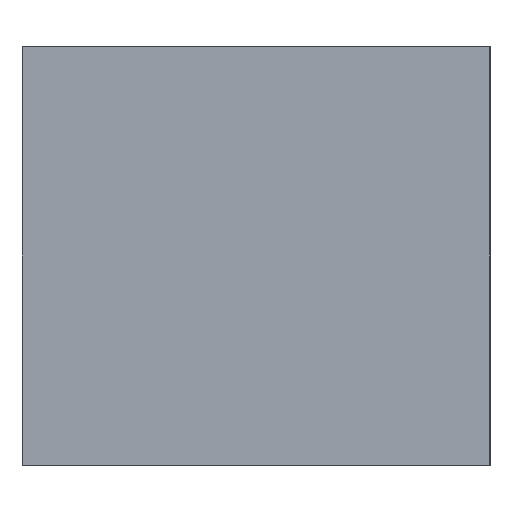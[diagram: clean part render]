
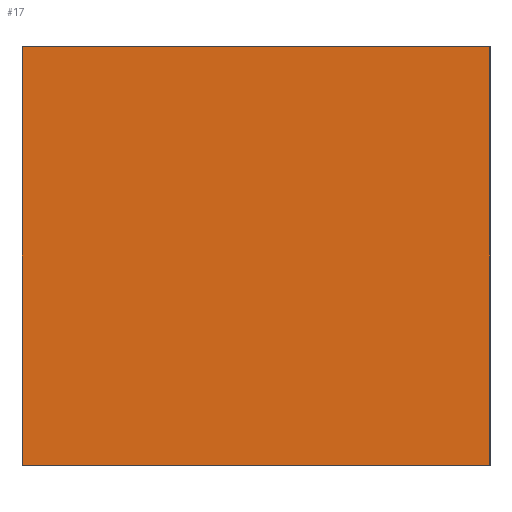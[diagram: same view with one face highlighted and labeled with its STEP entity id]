
A CAD part, left-side view. The second image highlights one B-rep face of the part: STEP entity #17.
In plain terms, the highlighted planar face has unit normal (-1, 0, 0).
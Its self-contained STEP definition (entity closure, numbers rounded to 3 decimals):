
#17 = ADVANCED_FACE('',(#18),#32,.F.);
#18 = FACE_BOUND('',#19,.F.);
#19 = EDGE_LOOP('',(#20,#55,#83,#111));
#20 = ORIENTED_EDGE('',*,*,#21,.F.);
#21 = EDGE_CURVE('',#22,#24,#26,.T.);
#22 = VERTEX_POINT('',#23);
#23 = CARTESIAN_POINT('',(-41.,-19.,0.));
#24 = VERTEX_POINT('',#25);
#25 = CARTESIAN_POINT('',(-41.,-19.,34.));
#26 = SURFACE_CURVE('',#27,(#31,#43),.PCURVE_S1.);
#27 = LINE('',#28,#29);
#28 = CARTESIAN_POINT('',(-41.,-19.,0.));
#29 = VECTOR('',#30,1.);
#30 = DIRECTION('',(0.,0.,1.));
#31 = PCURVE('',#32,#37);
#32 = PLANE('',#33);
#33 = AXIS2_PLACEMENT_3D('',#34,#35,#36);
#34 = CARTESIAN_POINT('',(-41.,-19.,30.));
#35 = DIRECTION('',(1.,0.,0.));
#36 = DIRECTION('',(0.,0.,1.));
#37 = DEFINITIONAL_REPRESENTATION('',(#38),#42);
#38 = LINE('',#39,#40);
#39 = CARTESIAN_POINT('',(-30.,0.));
#40 = VECTOR('',#41,1.);
#41 = DIRECTION('',(1.,0.));
#42 = ( GEOMETRIC_REPRESENTATION_CONTEXT(2) 
PARAMETRIC_REPRESENTATION_CONTEXT() REPRESENTATION_CONTEXT('2D SPACE',''
  ) );
#43 = PCURVE('',#44,#49);
#44 = PLANE('',#45);
#45 = AXIS2_PLACEMENT_3D('',#46,#47,#48);
#46 = CARTESIAN_POINT('',(-41.,-19.,30.));
#47 = DIRECTION('',(0.,1.,0.));
#48 = DIRECTION('',(0.,0.,1.));
#49 = DEFINITIONAL_REPRESENTATION('',(#50),#54);
#50 = LINE('',#51,#52);
#51 = CARTESIAN_POINT('',(-30.,0.));
#52 = VECTOR('',#53,1.);
#53 = DIRECTION('',(1.,0.));
#54 = ( GEOMETRIC_REPRESENTATION_CONTEXT(2) 
PARAMETRIC_REPRESENTATION_CONTEXT() REPRESENTATION_CONTEXT('2D SPACE',''
  ) );
#55 = ORIENTED_EDGE('',*,*,#56,.T.);
#56 = EDGE_CURVE('',#22,#57,#59,.T.);
#57 = VERTEX_POINT('',#58);
#58 = CARTESIAN_POINT('',(-41.,19.,0.));
#59 = SURFACE_CURVE('',#60,(#64,#71),.PCURVE_S1.);
#60 = LINE('',#61,#62);
#61 = CARTESIAN_POINT('',(-41.,-19.,0.));
#62 = VECTOR('',#63,1.);
#63 = DIRECTION('',(0.,1.,0.));
#64 = PCURVE('',#32,#65);
#65 = DEFINITIONAL_REPRESENTATION('',(#66),#70);
#66 = LINE('',#67,#68);
#67 = CARTESIAN_POINT('',(-30.,0.));
#68 = VECTOR('',#69,1.);
#69 = DIRECTION('',(0.,-1.));
#70 = ( GEOMETRIC_REPRESENTATION_CONTEXT(2) 
PARAMETRIC_REPRESENTATION_CONTEXT() REPRESENTATION_CONTEXT('2D SPACE',''
  ) );
#71 = PCURVE('',#72,#77);
#72 = PLANE('',#73);
#73 = AXIS2_PLACEMENT_3D('',#74,#75,#76);
#74 = CARTESIAN_POINT('',(-41.,-19.,0.));
#75 = DIRECTION('',(0.,0.,1.));
#76 = DIRECTION('',(1.,0.,0.));
#77 = DEFINITIONAL_REPRESENTATION('',(#78),#82);
#78 = LINE('',#79,#80);
#79 = CARTESIAN_POINT('',(0.,0.));
#80 = VECTOR('',#81,1.);
#81 = DIRECTION('',(0.,1.));
#82 = ( GEOMETRIC_REPRESENTATION_CONTEXT(2) 
PARAMETRIC_REPRESENTATION_CONTEXT() REPRESENTATION_CONTEXT('2D SPACE',''
  ) );
#83 = ORIENTED_EDGE('',*,*,#84,.F.);
#84 = EDGE_CURVE('',#85,#57,#87,.T.);
#85 = VERTEX_POINT('',#86);
#86 = CARTESIAN_POINT('',(-41.,19.,34.));
#87 = SURFACE_CURVE('',#88,(#92,#99),.PCURVE_S1.);
#88 = LINE('',#89,#90);
#89 = CARTESIAN_POINT('',(-41.,19.,34.));
#90 = VECTOR('',#91,1.);
#91 = DIRECTION('',(0.,0.,-1.));
#92 = PCURVE('',#32,#93);
#93 = DEFINITIONAL_REPRESENTATION('',(#94),#98);
#94 = LINE('',#95,#96);
#95 = CARTESIAN_POINT('',(4.,-38.));
#96 = VECTOR('',#97,1.);
#97 = DIRECTION('',(-1.,0.));
#98 = ( GEOMETRIC_REPRESENTATION_CONTEXT(2) 
PARAMETRIC_REPRESENTATION_CONTEXT() REPRESENTATION_CONTEXT('2D SPACE',''
  ) );
#99 = PCURVE('',#100,#105);
#100 = PLANE('',#101);
#101 = AXIS2_PLACEMENT_3D('',#102,#103,#104);
#102 = CARTESIAN_POINT('',(-41.,19.,30.));
#103 = DIRECTION('',(0.,1.,0.));
#104 = DIRECTION('',(0.,0.,1.));
#105 = DEFINITIONAL_REPRESENTATION('',(#106),#110);
#106 = LINE('',#107,#108);
#107 = CARTESIAN_POINT('',(4.,0.));
#108 = VECTOR('',#109,1.);
#109 = DIRECTION('',(-1.,0.));
#110 = ( GEOMETRIC_REPRESENTATION_CONTEXT(2) 
PARAMETRIC_REPRESENTATION_CONTEXT() REPRESENTATION_CONTEXT('2D SPACE',''
  ) );
#111 = ORIENTED_EDGE('',*,*,#112,.F.);
#112 = EDGE_CURVE('',#24,#85,#113,.T.);
#113 = SURFACE_CURVE('',#114,(#118,#125),.PCURVE_S1.);
#114 = LINE('',#115,#116);
#115 = CARTESIAN_POINT('',(-41.,-19.,34.));
#116 = VECTOR('',#117,1.);
#117 = DIRECTION('',(0.,1.,0.));
#118 = PCURVE('',#32,#119);
#119 = DEFINITIONAL_REPRESENTATION('',(#120),#124);
#120 = LINE('',#121,#122);
#121 = CARTESIAN_POINT('',(4.,0.));
#122 = VECTOR('',#123,1.);
#123 = DIRECTION('',(0.,-1.));
#124 = ( GEOMETRIC_REPRESENTATION_CONTEXT(2) 
PARAMETRIC_REPRESENTATION_CONTEXT() REPRESENTATION_CONTEXT('2D SPACE',''
  ) );
#125 = PCURVE('',#126,#131);
#126 = PLANE('',#127);
#127 = AXIS2_PLACEMENT_3D('',#128,#129,#130);
#128 = CARTESIAN_POINT('',(-41.,-19.,34.));
#129 = DIRECTION('',(0.,0.,1.));
#130 = DIRECTION('',(1.,0.,0.));
#131 = DEFINITIONAL_REPRESENTATION('',(#132),#136);
#132 = LINE('',#133,#134);
#133 = CARTESIAN_POINT('',(0.,0.));
#134 = VECTOR('',#135,1.);
#135 = DIRECTION('',(0.,1.));
#136 = ( GEOMETRIC_REPRESENTATION_CONTEXT(2) 
PARAMETRIC_REPRESENTATION_CONTEXT() REPRESENTATION_CONTEXT('2D SPACE',''
  ) );
